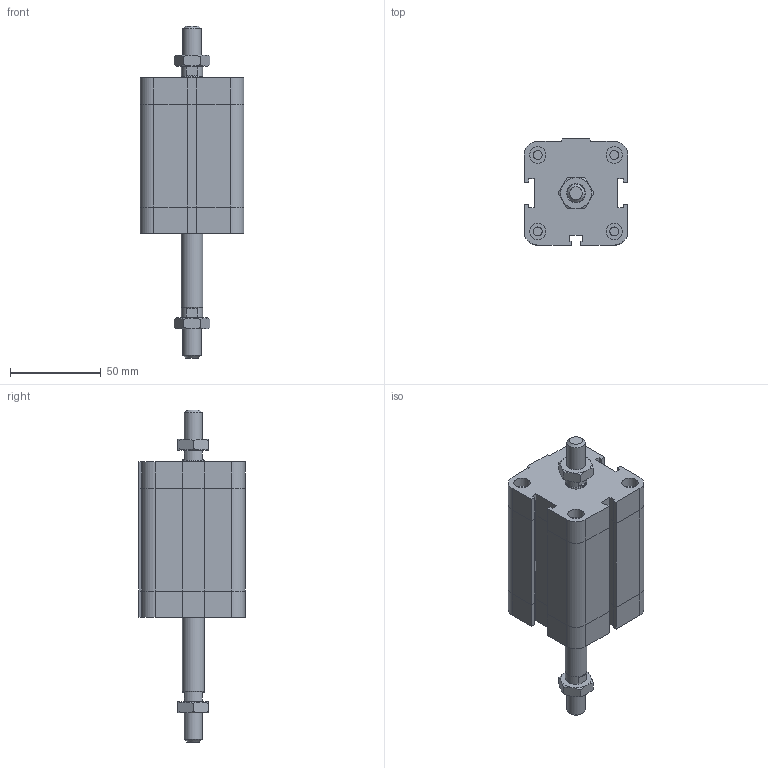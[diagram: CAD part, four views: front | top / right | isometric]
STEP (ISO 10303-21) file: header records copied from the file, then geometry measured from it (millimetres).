
FILE_DESCRIPTION((''),'2;1');
FILE_NAME('I:\Area Tecnica\Disegni\VARIE-3D\Componenti\EUROPE\15##_###_####_04_#\1581_40_0040_04_1.iam.stp','2009-04-20T14:51:37',(''),(''),'Autodesk Inventor 2009','Autodesk Inventor 2009','');
FILE_SCHEMA(('AUTOMOTIVE_DESIGN { 1 0 10303 214 1 1 1 1 }'));
Length unit declared in the file: millimetre
Products named in the file (4): 1581_40_0040_04_1; 1581_40_0040_03_1_C; 1561_40_0040_04_1_S; DBFM10
Assembly tree (4 placements, depth 2):
  1581_40_0040_04_1
    1581_40_0040_03_1_C
    1561_40_0040_04_1_S
    DBFM10  x2
Bounding box: 57 x 58.5 x 182.5 mm (x, y, z)
Volume: 265180.9 mm3; surface area: 43802.3 mm2
Topology: 4 solids, 4 shells, 222 faces, 483 edges, 289 vertices
Faces by surface type: plane 129, cone 35, bspline 33, cylinder 25
Full cylindrical faces by diameter (mm): 4.917 x4, 8.8 x1, 9 x4, 10 x1, 11.7 x2, 12 x1
Entity records: 5450 total; most frequent: CARTESIAN_POINT 1222, DIRECTION 802, ORIENTED_EDGE 772, EDGE_CURVE 386, AXIS2_PLACEMENT_3D 272, EDGE_LOOP 258, VECTOR 258, LINE 258
